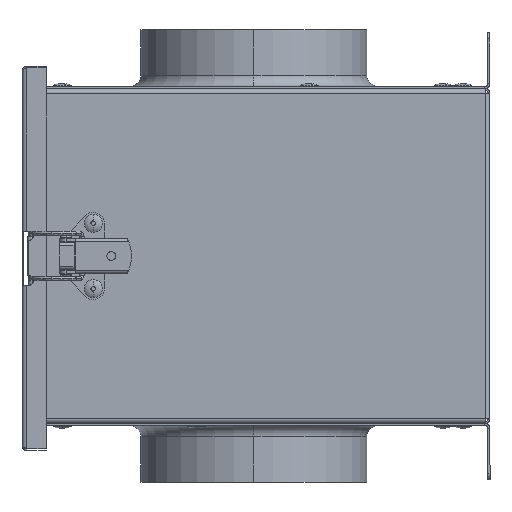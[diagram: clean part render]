
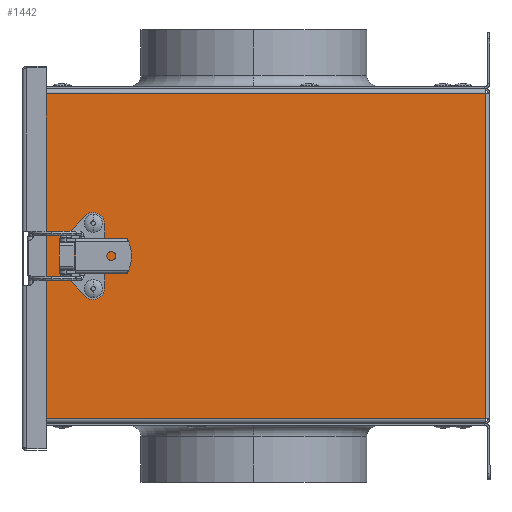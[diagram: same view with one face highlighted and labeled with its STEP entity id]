
A CAD part, left-side view. The second image highlights one B-rep face of the part: STEP entity #1442.
In plain terms, the highlighted planar face has unit normal (-1, 0, 0).
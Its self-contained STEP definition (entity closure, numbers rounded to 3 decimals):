
#139 = VERTEX_POINT ( 'NONE', #5871 ) ;
#248 = LINE ( 'NONE', #18633, #11460 ) ;
#357 = VERTEX_POINT ( 'NONE', #5545 ) ;
#423 = ORIENTED_EDGE ( 'NONE', *, *, #12382, .T. ) ;
#689 = EDGE_CURVE ( 'NONE', #357, #10951, #15778, .T. ) ;
#849 = VECTOR ( 'NONE', #19066, 1000. ) ;
#1060 = EDGE_CURVE ( 'NONE', #10050, #14958, #13134, .T. ) ;
#1266 = VERTEX_POINT ( 'NONE', #6412 ) ;
#1402 = DIRECTION ( 'NONE',  ( 0., 1., 0. ) ) ;
#1442 = ADVANCED_FACE ( 'NONE', ( #13198, #5090, #17255 ), #9026, .F. ) ;
#1613 = ORIENTED_EDGE ( 'NONE', *, *, #6720, .T. ) ;
#2329 = CARTESIAN_POINT ( 'NONE',  ( -100., 204.2, -72. ) ) ;
#2629 = VERTEX_POINT ( 'NONE', #11417 ) ;
#2926 = CARTESIAN_POINT ( 'NONE',  ( -100., 0.8, 74. ) ) ;
#2966 = ORIENTED_EDGE ( 'NONE', *, *, #9008, .F. ) ;
#2970 = VECTOR ( 'NONE', #1402, 1000. ) ;
#3273 = EDGE_CURVE ( 'NONE', #15475, #2629, #10195, .T. ) ;
#3304 = LINE ( 'NONE', #17830, #10938 ) ;
#3509 = CARTESIAN_POINT ( 'NONE',  ( -100., 175.5, -14.5 ) ) ;
#3515 = EDGE_LOOP ( 'NONE', ( #11079, #423 ) ) ;
#3563 = CARTESIAN_POINT ( 'NONE',  ( -100., 204.2, 72. ) ) ;
#3705 = CARTESIAN_POINT ( 'NONE',  ( -100., 173.4, 14.5 ) ) ;
#3746 = DIRECTION ( 'NONE',  ( 0., -1., 0. ) ) ;
#3783 = CARTESIAN_POINT ( 'NONE',  ( -100., 177.6, 14.5 ) ) ;
#3797 = ORIENTED_EDGE ( 'NONE', *, *, #3273, .T. ) ;
#3841 = DIRECTION ( 'NONE',  ( 1., 0., 0. ) ) ;
#3916 = EDGE_CURVE ( 'NONE', #1266, #6424, #11365, .T. ) ;
#4027 = CARTESIAN_POINT ( 'NONE',  ( -100., 0.8, -58.1 ) ) ;
#4117 = EDGE_CURVE ( 'NONE', #13502, #10951, #8979, .T. ) ;
#4163 = VERTEX_POINT ( 'NONE', #13153 ) ;
#4575 = CARTESIAN_POINT ( 'NONE',  ( -100., 2., -74. ) ) ;
#4745 = EDGE_CURVE ( 'NONE', #15410, #139, #11573, .T. ) ;
#4762 = CARTESIAN_POINT ( 'NONE',  ( -100., 202.192, 74. ) ) ;
#4941 = VECTOR ( 'NONE', #19303, 1000. ) ;
#5035 = DIRECTION ( 'NONE',  ( 0., 1., 0. ) ) ;
#5090 = FACE_BOUND ( 'NONE', #6757, .T. ) ;
#5273 = CARTESIAN_POINT ( 'NONE',  ( -100., 0.8, -58.108 ) ) ;
#5383 = CARTESIAN_POINT ( 'NONE',  ( -100., 204.2, 74. ) ) ;
#5545 = CARTESIAN_POINT ( 'NONE',  ( -100., 202.192, 58.108 ) ) ;
#5583 = CARTESIAN_POINT ( 'NONE',  ( -100., 2., 72. ) ) ;
#5624 = DIRECTION ( 'NONE',  ( 0., 0., 1. ) ) ;
#5694 = DIRECTION ( 'NONE',  ( 1., 0., 0. ) ) ;
#5871 = CARTESIAN_POINT ( 'NONE',  ( -100., 202.192, -58.108 ) ) ;
#6011 = DIRECTION ( 'NONE',  ( 0., 1., 0. ) ) ;
#6083 = ORIENTED_EDGE ( 'NONE', *, *, #9541, .T. ) ;
#6350 = ORIENTED_EDGE ( 'NONE', *, *, #689, .F. ) ;
#6412 = CARTESIAN_POINT ( 'NONE',  ( -100., 202.2, 58.1 ) ) ;
#6424 = VERTEX_POINT ( 'NONE', #15480 ) ;
#6558 = VECTOR ( 'NONE', #3746, 1000. ) ;
#6604 = VECTOR ( 'NONE', #19782, 1000. ) ;
#6720 = EDGE_CURVE ( 'NONE', #14958, #10050, #7865, .T. ) ;
#6757 = EDGE_LOOP ( 'NONE', ( #10578, #1613 ) ) ;
#7196 = EDGE_CURVE ( 'NONE', #139, #14596, #3304, .T. ) ;
#7314 = VECTOR ( 'NONE', #11095, 1000. ) ;
#7435 = CIRCLE ( 'NONE', #8576, 2.1 ) ;
#7524 = CARTESIAN_POINT ( 'NONE',  ( -100., 202.2, 58.1 ) ) ;
#7776 = VECTOR ( 'NONE', #16647, 1000. ) ;
#7865 = CIRCLE ( 'NONE', #10911, 2.1 ) ;
#8037 = CARTESIAN_POINT ( 'NONE',  ( -100., 0.8, 58.1 ) ) ;
#8308 = EDGE_CURVE ( 'NONE', #14596, #4163, #9014, .T. ) ;
#8466 = EDGE_LOOP ( 'NONE', ( #6350, #15392, #16070, #11887, #19424, #10069, #10790, #18231, #3797, #2966, #6083, #16308 ) ) ;
#8576 = AXIS2_PLACEMENT_3D ( 'NONE', #12970, #3841, #14508 ) ;
#8784 = CARTESIAN_POINT ( 'NONE',  ( -100., 175.5, 14.5 ) ) ;
#8979 = LINE ( 'NONE', #5383, #849 ) ;
#9008 = EDGE_CURVE ( 'NONE', #18448, #2629, #11128, .T. ) ;
#9014 = LINE ( 'NONE', #4027, #4941 ) ;
#9026 = PLANE ( 'NONE',  #18354 ) ;
#9133 = LINE ( 'NONE', #4762, #12222 ) ;
#9541 = EDGE_CURVE ( 'NONE', #18448, #13502, #10622, .T. ) ;
#9607 = VERTEX_POINT ( 'NONE', #15263 ) ;
#9890 = CARTESIAN_POINT ( 'NONE',  ( -100., 173.4, -14.5 ) ) ;
#10050 = VERTEX_POINT ( 'NONE', #3783 ) ;
#10069 = ORIENTED_EDGE ( 'NONE', *, *, #7196, .F. ) ;
#10195 = LINE ( 'NONE', #2329, #18297 ) ;
#10285 = DIRECTION ( 'NONE',  ( 0., 1., 0. ) ) ;
#10578 = ORIENTED_EDGE ( 'NONE', *, *, #1060, .T. ) ;
#10622 = LINE ( 'NONE', #16681, #2970 ) ;
#10790 = ORIENTED_EDGE ( 'NONE', *, *, #4745, .F. ) ;
#10904 = DIRECTION ( 'NONE',  ( 0., 0., -1. ) ) ;
#10911 = AXIS2_PLACEMENT_3D ( 'NONE', #14800, #5694, #16362 ) ;
#10938 = VECTOR ( 'NONE', #5624, 1000. ) ;
#10951 = VERTEX_POINT ( 'NONE', #17231 ) ;
#11079 = ORIENTED_EDGE ( 'NONE', *, *, #12513, .T. ) ;
#11095 = DIRECTION ( 'NONE',  ( 0., -1., 0. ) ) ;
#11128 = LINE ( 'NONE', #4575, #6604 ) ;
#11177 = CARTESIAN_POINT ( 'NONE',  ( -100., 0.8, 58.108 ) ) ;
#11364 = CARTESIAN_POINT ( 'NONE',  ( -100., 204.2, -58.108 ) ) ;
#11365 = LINE ( 'NONE', #8037, #7314 ) ;
#11417 = CARTESIAN_POINT ( 'NONE',  ( -100., 2., -72. ) ) ;
#11460 = VECTOR ( 'NONE', #10904, 1000. ) ;
#11573 = LINE ( 'NONE', #5273, #6558 ) ;
#11819 = LINE ( 'NONE', #7524, #7776 ) ;
#11887 = ORIENTED_EDGE ( 'NONE', *, *, #14671, .T. ) ;
#12192 = VECTOR ( 'NONE', #12714, 1000. ) ;
#12222 = VECTOR ( 'NONE', #12419, 1000. ) ;
#12382 = EDGE_CURVE ( 'NONE', #19222, #9607, #17678, .T. ) ;
#12419 = DIRECTION ( 'NONE',  ( 0., 0., 1. ) ) ;
#12513 = EDGE_CURVE ( 'NONE', #9607, #19222, #7435, .T. ) ;
#12714 = DIRECTION ( 'NONE',  ( 0., 1., 0. ) ) ;
#12911 = CARTESIAN_POINT ( 'NONE',  ( -100., 204.2, -72. ) ) ;
#12970 = CARTESIAN_POINT ( 'NONE',  ( -100., 175.5, -14.5 ) ) ;
#12995 = DIRECTION ( 'NONE',  ( 0., -1., 0. ) ) ;
#13134 = CIRCLE ( 'NONE', #18093, 2.1 ) ;
#13153 = CARTESIAN_POINT ( 'NONE',  ( -100., 202.2, -58.1 ) ) ;
#13198 = FACE_BOUND ( 'NONE', #3515, .T. ) ;
#13502 = VERTEX_POINT ( 'NONE', #3563 ) ;
#14173 = DIRECTION ( 'NONE',  ( 1., 0., 0. ) ) ;
#14508 = DIRECTION ( 'NONE',  ( 0., 1., 0. ) ) ;
#14596 = VERTEX_POINT ( 'NONE', #16390 ) ;
#14671 = EDGE_CURVE ( 'NONE', #1266, #4163, #11819, .T. ) ;
#14800 = CARTESIAN_POINT ( 'NONE',  ( -100., 175.5, 14.5 ) ) ;
#14958 = VERTEX_POINT ( 'NONE', #3705 ) ;
#15135 = DIRECTION ( 'NONE',  ( 1., 0., 0. ) ) ;
#15263 = CARTESIAN_POINT ( 'NONE',  ( -100., 177.6, -14.5 ) ) ;
#15392 = ORIENTED_EDGE ( 'NONE', *, *, #17365, .F. ) ;
#15410 = VERTEX_POINT ( 'NONE', #11364 ) ;
#15475 = VERTEX_POINT ( 'NONE', #12911 ) ;
#15480 = CARTESIAN_POINT ( 'NONE',  ( -100., 202.192, 58.1 ) ) ;
#15778 = LINE ( 'NONE', #11177, #12192 ) ;
#16070 = ORIENTED_EDGE ( 'NONE', *, *, #3916, .F. ) ;
#16308 = ORIENTED_EDGE ( 'NONE', *, *, #4117, .T. ) ;
#16362 = DIRECTION ( 'NONE',  ( 0., 1., 0. ) ) ;
#16390 = CARTESIAN_POINT ( 'NONE',  ( -100., 202.192, -58.1 ) ) ;
#16647 = DIRECTION ( 'NONE',  ( 0., 0., -1. ) ) ;
#16681 = CARTESIAN_POINT ( 'NONE',  ( -100., 2., 72. ) ) ;
#17231 = CARTESIAN_POINT ( 'NONE',  ( -100., 204.2, 58.108 ) ) ;
#17255 = FACE_OUTER_BOUND ( 'NONE', #8466, .T. ) ;
#17365 = EDGE_CURVE ( 'NONE', #6424, #357, #9133, .T. ) ;
#17678 = CIRCLE ( 'NONE', #19188, 2.1 ) ;
#17830 = CARTESIAN_POINT ( 'NONE',  ( -100., 202.192, 74. ) ) ;
#18093 = AXIS2_PLACEMENT_3D ( 'NONE', #8784, #19437, #10285 ) ;
#18231 = ORIENTED_EDGE ( 'NONE', *, *, #18640, .T. ) ;
#18297 = VECTOR ( 'NONE', #12995, 1000. ) ;
#18354 = AXIS2_PLACEMENT_3D ( 'NONE', #2926, #15135, #6011 ) ;
#18448 = VERTEX_POINT ( 'NONE', #5583 ) ;
#18633 = CARTESIAN_POINT ( 'NONE',  ( -100., 204.2, 74. ) ) ;
#18640 = EDGE_CURVE ( 'NONE', #15410, #15475, #248, .T. ) ;
#19066 = DIRECTION ( 'NONE',  ( 0., 0., -1. ) ) ;
#19188 = AXIS2_PLACEMENT_3D ( 'NONE', #3509, #14173, #5035 ) ;
#19222 = VERTEX_POINT ( 'NONE', #9890 ) ;
#19303 = DIRECTION ( 'NONE',  ( 0., 1., 0. ) ) ;
#19424 = ORIENTED_EDGE ( 'NONE', *, *, #8308, .F. ) ;
#19437 = DIRECTION ( 'NONE',  ( 1., 0., 0. ) ) ;
#19782 = DIRECTION ( 'NONE',  ( 0., 0., -1. ) ) ;
